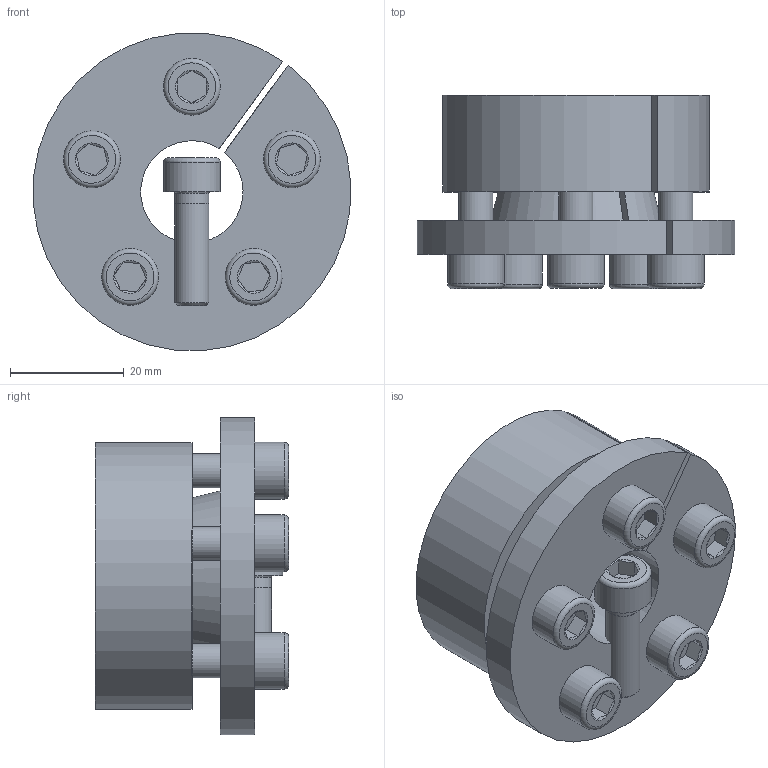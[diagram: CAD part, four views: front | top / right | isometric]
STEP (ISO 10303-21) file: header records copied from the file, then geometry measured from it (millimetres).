
FILE_DESCRIPTION( ( 'Unknown' ), '1' );
FILE_NAME( 'C:/Dokumente und Einstellungen/Sven/Desktop/homepage/cad - homepage/KBS16/KBS 16 - 18 x 47.stp', 'Unknown', ( 'Unknown' ), ( 'Unknown' ), 'XStep 1.0', 'Unknown', ' ' );
FILE_SCHEMA( ( 'automotive_design' ) );
Length unit declared in the file: millimetre
Products named in the file (3): Assem1; KBS 16 - 18 x 47; ISO EN DIN 4762 M6x20
Bounding box: 55.88 x 34 x 55.84 mm (x, y, z)
Volume: 78860.6 mm3; surface area: 33645.9 mm2
Topology: 8 solids, 8 shells, 194 faces, 388 edges, 234 vertices
Faces by surface type: plane 86, cylinder 50, cone 46, torus 12
Full cylindrical faces by diameter (mm): 5 x6, 6 x32, 10 x6
Entity records: 1552 total; most frequent: CARTESIAN_POINT 260, DIRECTION 230, ORIENTED_EDGE 170, AXIS2_PLACEMENT_3D 101, EDGE_LOOP 88, EDGE_CURVE 85, FACE_OUTER_BOUND 63, VERTEX_POINT 63
